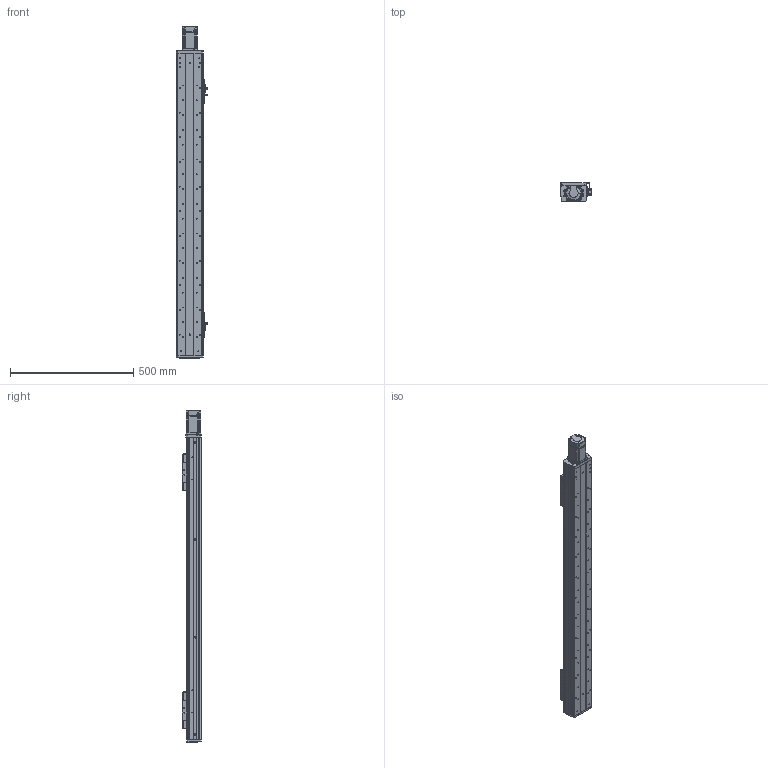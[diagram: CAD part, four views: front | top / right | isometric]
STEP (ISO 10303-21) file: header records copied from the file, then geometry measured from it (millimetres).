
FILE_DESCRIPTION (( 'STEP AP203' ), '1' );
FILE_NAME ('RY100FS-L1610-300-MK(15Ë«¹ì).SLDASM_950.step', '2022-06-22T07:50:22', ( '' ), ( '' ), 'SwSTEP 2.0', 'SolidWorks 2016', '' );
FILE_SCHEMA (( 'CONFIG_CONTROL_DESIGN' ));
Length unit declared in the file: millimetre
Products named in the file (17): 滅袉蝶14-24; RY100FS-L1610-300-MK(15邧寢).SLDASM_950; 覜茼ん672; RY100FS-双轨螺母座(16丝杆）; RY100FS-300-MK15絳寢倰第奻裔啣_950; 滅袉蝶14-35; RY100FS-15絳寢萇儂假蚾啣(200W PCD70 M4); RY100FS-300-MK15絳寢倰第菁釱_950; 672嫖萇羲壽假蚾釱; RY100FS-双轨铝滑块(优力胶上板）; RY80俋离覜茼え; RY100FS-300-MK15邧寢祥凄詩湍_950; RY100F-防尘盖板(优力胶轮); RY100F-詩湍揤踡輸; RY100F-綴裔啣; 侂狟200W萇儂; 1
Assembly tree (27 placements, depth 3):
  RY100FS-L1610-300-MK(15邧寢).SLDASM_950
    RY100FS-300-MK15絳寢倰第菁釱_950
    RY100FS-300-MK15絳寢倰第奻裔啣_950  x2
    RY100FS-300-MK15邧寢祥凄詩湍_950
    侂狟200W萇儂
      1
    RY100F-綴裔啣
    RY100FS-双轨螺母座(16丝杆）  x2
    672嫖萇羲壽假蚾釱  x2
    覜茼ん672  x3
    RY100F-詩湍揤踡輸  x2
    RY100FS-15絳寢萇儂假蚾啣(200W PCD70 M4)
    滅袉蝶14-24  x2
    滅袉蝶14-35
    RY100FS-双轨铝滑块(优力胶上板）  x2
    RY80俋离覜茼え  x3
    RY100F-防尘盖板(优力胶轮)  x2
Bounding box: 126.2 x 78.5 x 1346 mm (x, y, z)
Volume: 3058507.2 mm3; surface area: 1249899.3 mm2
Topology: 26 solids, 26 shells, 2574 faces, 7072 edges, 4559 vertices
Faces by surface type: plane 1167, cylinder 1154, cone 228, bspline 25
Entity records: 60932 total; most frequent: CARTESIAN_POINT 13385, ORIENTED_EDGE 9530, DIRECTION 9444, EDGE_CURVE 4765, AXIS2_PLACEMENT_3D 3322, VERTEX_POINT 3133, LINE 2800, VECTOR 2800
